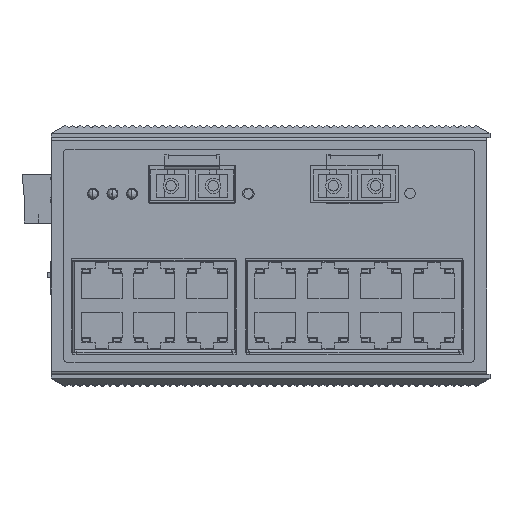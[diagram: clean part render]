
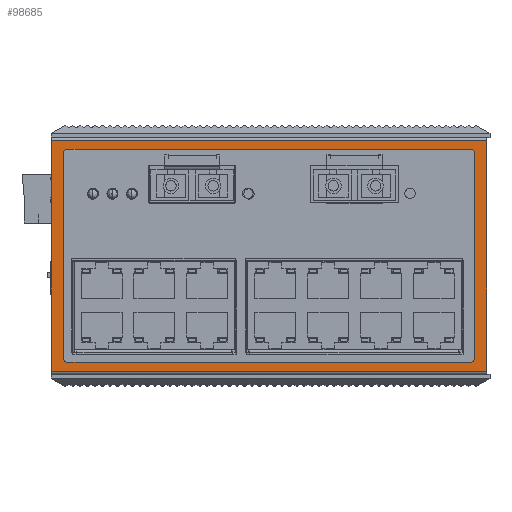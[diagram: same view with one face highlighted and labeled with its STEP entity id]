
A CAD part, top view. The second image highlights one B-rep face of the part: STEP entity #98685.
In plain terms, the highlighted planar face has unit normal (0, 0, 1) as drawn and (0, 0, -1) by its records, which use the part's own axes.
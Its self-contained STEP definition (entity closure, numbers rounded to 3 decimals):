
#95551=DIRECTION('',(-1.,0.,0.));
#95552=VECTOR('',#95551,134.);
#95553=CARTESIAN_POINT('',(67.,-72.1,-48.5));
#95554=LINE('',#95553,#95552);
#95560=DIRECTION('',(0.,-1.,0.));
#95561=VECTOR('',#95560,71.1);
#95562=CARTESIAN_POINT('',(-67.,-1.,-48.5));
#95563=LINE('',#95562,#95561);
#95564=DIRECTION('',(0.,1.,0.));
#95565=VECTOR('',#95564,71.1);
#95566=CARTESIAN_POINT('',(67.,-72.1,-48.5));
#95567=LINE('',#95566,#95565);
#95568=DIRECTION('',(-1.,0.,0.));
#95569=VECTOR('',#95568,134.);
#95570=CARTESIAN_POINT('',(67.,-1.,-48.5));
#95571=LINE('',#95570,#95569);
#95572=DIRECTION('',(0.,-1.,0.));
#95573=VECTOR('',#95572,63.5);
#95574=CARTESIAN_POINT('',(-63.2,-4.75,-48.5));
#95575=LINE('',#95574,#95573);
#95576=CARTESIAN_POINT('',(-62.2,-4.75,-48.5));
#95577=DIRECTION('',(0.,0.,-1.));
#95578=DIRECTION('',(-1.,0.,0.));
#95579=AXIS2_PLACEMENT_3D('',#95576,#95577,#95578);
#95581=DIRECTION('',(-1.,0.,0.));
#95582=VECTOR('',#95581,124.4);
#95583=CARTESIAN_POINT('',(62.2,-3.75,-48.5));
#95584=LINE('',#95583,#95582);
#95585=CARTESIAN_POINT('',(62.2,-4.75,-48.5));
#95586=DIRECTION('',(0.,0.,-1.));
#95587=DIRECTION('',(0.,1.,0.));
#95588=AXIS2_PLACEMENT_3D('',#95585,#95586,#95587);
#95590=DIRECTION('',(0.,1.,0.));
#95591=VECTOR('',#95590,63.5);
#95592=CARTESIAN_POINT('',(63.2,-68.25,-48.5));
#95593=LINE('',#95592,#95591);
#95594=CARTESIAN_POINT('',(62.2,-68.25,-48.5));
#95595=DIRECTION('',(0.,0.,-1.));
#95596=DIRECTION('',(1.,0.,0.));
#95597=AXIS2_PLACEMENT_3D('',#95594,#95595,#95596);
#95599=DIRECTION('',(1.,0.,0.));
#95600=VECTOR('',#95599,124.4);
#95601=CARTESIAN_POINT('',(-62.2,-69.25,-48.5));
#95602=LINE('',#95601,#95600);
#95603=CARTESIAN_POINT('',(-62.2,-68.25,-48.5));
#95604=DIRECTION('',(0.,0.,-1.));
#95605=DIRECTION('',(0.,-1.,0.));
#95606=AXIS2_PLACEMENT_3D('',#95603,#95604,#95605);
#96806=CARTESIAN_POINT('',(67.,-1.,-48.5));
#96807=CARTESIAN_POINT('',(-67.,-1.,-48.5));
#96808=VERTEX_POINT('',#96806);
#96809=VERTEX_POINT('',#96807);
#96822=CARTESIAN_POINT('',(67.,-72.1,-48.5));
#96823=CARTESIAN_POINT('',(-67.,-72.1,-48.5));
#96824=VERTEX_POINT('',#96822);
#96825=VERTEX_POINT('',#96823);
#96966=CARTESIAN_POINT('',(-63.2,-4.75,-48.5));
#96967=CARTESIAN_POINT('',(-63.2,-68.25,-48.5));
#96968=VERTEX_POINT('',#96966);
#96969=VERTEX_POINT('',#96967);
#96970=CARTESIAN_POINT('',(-62.2,-69.25,-48.5));
#96971=CARTESIAN_POINT('',(62.2,-69.25,-48.5));
#96972=VERTEX_POINT('',#96970);
#96973=VERTEX_POINT('',#96971);
#96974=CARTESIAN_POINT('',(63.2,-68.25,-48.5));
#96975=CARTESIAN_POINT('',(63.2,-4.75,-48.5));
#96976=VERTEX_POINT('',#96974);
#96977=VERTEX_POINT('',#96975);
#96978=CARTESIAN_POINT('',(62.2,-3.75,-48.5));
#96979=CARTESIAN_POINT('',(-62.2,-3.75,-48.5));
#96980=VERTEX_POINT('',#96978);
#96981=VERTEX_POINT('',#96979);
#98655=CARTESIAN_POINT('',(-67.,-1.,-48.5));
#98656=DIRECTION('',(0.,0.,1.));
#98657=DIRECTION('',(-1.,0.,0.));
#98658=AXIS2_PLACEMENT_3D('',#98655,#98656,#98657);
#98659=PLANE('',#98658);
#98660=ORIENTED_EDGE('',*,*,#98443,.T.);
#98661=ORIENTED_EDGE('',*,*,#98649,.F.);
#98662=ORIENTED_EDGE('',*,*,#97595,.T.);
#98664=ORIENTED_EDGE('',*,*,#98663,.T.);
#98665=EDGE_LOOP('',(#98660,#98661,#98662,#98664));
#98666=FACE_OUTER_BOUND('',#98665,.F.);
#98668=ORIENTED_EDGE('',*,*,#98667,.F.);
#98670=ORIENTED_EDGE('',*,*,#98669,.T.);
#98672=ORIENTED_EDGE('',*,*,#98671,.F.);
#98674=ORIENTED_EDGE('',*,*,#98673,.T.);
#98676=ORIENTED_EDGE('',*,*,#98675,.F.);
#98678=ORIENTED_EDGE('',*,*,#98677,.T.);
#98680=ORIENTED_EDGE('',*,*,#98679,.F.);
#98682=ORIENTED_EDGE('',*,*,#98681,.T.);
#98683=EDGE_LOOP('',(#98668,#98670,#98672,#98674,#98676,#98678,#98680,#98682));
#98684=FACE_BOUND('',#98683,.F.);
#98685=ADVANCED_FACE('',(#98666,#98684),#98659,.F.);
#95580=CIRCLE('',#95579,1.);
#95589=CIRCLE('',#95588,1.);
#95598=CIRCLE('',#95597,1.);
#95607=CIRCLE('',#95606,1.);
#97595=EDGE_CURVE('',#96824,#96808,#95567,.T.);
#98443=EDGE_CURVE('',#96809,#96825,#95563,.T.);
#98649=EDGE_CURVE('',#96824,#96825,#95554,.T.);
#98663=EDGE_CURVE('',#96808,#96809,#95571,.T.);
#98667=EDGE_CURVE('',#96968,#96969,#95575,.T.);
#98669=EDGE_CURVE('',#96968,#96981,#95580,.T.);
#98671=EDGE_CURVE('',#96980,#96981,#95584,.T.);
#98673=EDGE_CURVE('',#96980,#96977,#95589,.T.);
#98675=EDGE_CURVE('',#96976,#96977,#95593,.T.);
#98677=EDGE_CURVE('',#96976,#96973,#95598,.T.);
#98679=EDGE_CURVE('',#96972,#96973,#95602,.T.);
#98681=EDGE_CURVE('',#96972,#96969,#95607,.T.);
